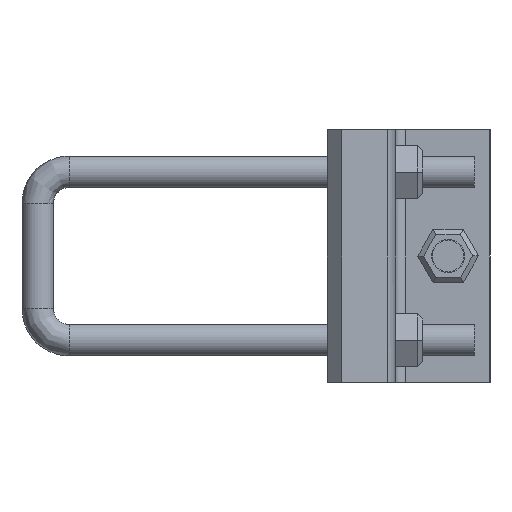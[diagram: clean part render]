
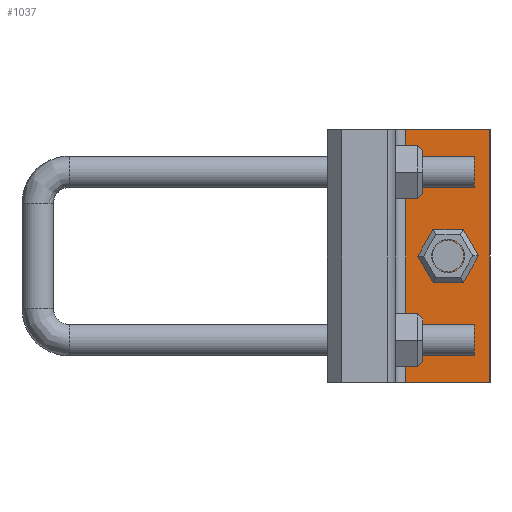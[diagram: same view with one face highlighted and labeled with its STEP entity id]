
A CAD part, left-side view. The second image highlights one B-rep face of the part: STEP entity #1037.
In plain terms, the highlighted planar face has unit normal (-1, 0, 0).
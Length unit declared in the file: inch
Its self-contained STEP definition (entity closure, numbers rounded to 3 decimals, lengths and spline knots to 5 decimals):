
#983=EDGE_CURVE('',#2308,#2309,#2310,.T.);
#1019=EDGE_CURVE('',#2309,#2359,#2360,.T.);
#1037=ADVANCED_FACE('',(#2386,#2387),#2388,.T.);
#1445=EDGE_CURVE('',#1945,#2359,#2926,.T.);
#1671=EDGE_CURVE('',#1945,#2308,#3198,.T.);
#1945=VERTEX_POINT('',#3601);
#2308=VERTEX_POINT('',#4315);
#2309=VERTEX_POINT('',#4316);
#2310=LINE('',#4317,#4318);
#2359=VERTEX_POINT('',#4413);
#2360=LINE('',#4414,#4415);
#2386=FACE_OUTER_BOUND('',#4461,.T.);
#2387=FACE_BOUND('',#4462,.T.);
#2388=PLANE('',#4463);
#2926=LINE('',#5492,#5493);
#3198=LINE('',#6150,#6151);
#3601=CARTESIAN_POINT('',(-9.0,1.0,0.));
#4315=CARTESIAN_POINT('',(-9.0,0.0,0.));
#4316=CARTESIAN_POINT('',(-9.0,0.0,3.0));
#4317=CARTESIAN_POINT('',(-9.0,0.0,0.));
#4318=VECTOR('',#6856,1.);
#4413=CARTESIAN_POINT('',(-9.0,1.0,3.0));
#4414=CARTESIAN_POINT('',(-9.0,1.0,3.0));
#4415=VECTOR('',#6925,1.);
#4461=EDGE_LOOP('',(#6938,#6939,#6940,#6941));
#4462=EDGE_LOOP('',(#6942,#6943));
#4463=AXIS2_PLACEMENT_3D('',#6944,#6945,#6946);
#5492=CARTESIAN_POINT('',(-9.0,1.0,0.));
#5493=VECTOR('',#7652,1.);
#6150=CARTESIAN_POINT('',(-9.0,1.0,0.));
#6151=VECTOR('',#8047,1.);
#6856=DIRECTION('',(0.0,0.0,1.0));
#6925=DIRECTION('',(0.0,1.0,0.0));
#6938=ORIENTED_EDGE('',*,*,#1019,.T.);
#6939=ORIENTED_EDGE('',*,*,#1445,.F.);
#6940=ORIENTED_EDGE('',*,*,#1671,.T.);
#6941=ORIENTED_EDGE('',*,*,#983,.T.);
#6942=ORIENTED_EDGE('',*,*,#8190,.F.);
#6943=ORIENTED_EDGE('',*,*,#8208,.F.);
#6944=CARTESIAN_POINT('',(-9.0,0.5,0.));
#6945=DIRECTION('',(-1.0,0.0,0.0));
#6946=DIRECTION('',(0.0,-1.0,0.0));
#7652=DIRECTION('',(0.0,0.0,1.0));
#8047=DIRECTION('',(0.0,-1.0,0.0));
#8190=EDGE_CURVE('',#8465,#8463,#8467,.T.);
#8208=EDGE_CURVE('',#8463,#8465,#8487,.T.);
#8463=VERTEX_POINT('',#8768);
#8465=VERTEX_POINT('',#8771);
#8467=CIRCLE('',#8774,0.1875);
#8487=CIRCLE('',#8796,0.1875);
#8768=CARTESIAN_POINT('',(-9.0,0.68737,1.5));
#8771=CARTESIAN_POINT('',(-9.0,0.31237,1.5));
#8774=AXIS2_PLACEMENT_3D('',#9044,#9045,#9046);
#8796=AXIS2_PLACEMENT_3D('',#9061,#9062,#9063);
#9044=CARTESIAN_POINT('',(-9.0,0.49987,1.5));
#9045=DIRECTION('',(-1.0,0.0,0.0));
#9046=DIRECTION('',(0.0,1.0,0.0));
#9061=CARTESIAN_POINT('',(-9.0,0.49987,1.5));
#9062=DIRECTION('',(-1.0,0.0,0.0));
#9063=DIRECTION('',(0.0,1.0,0.0));
